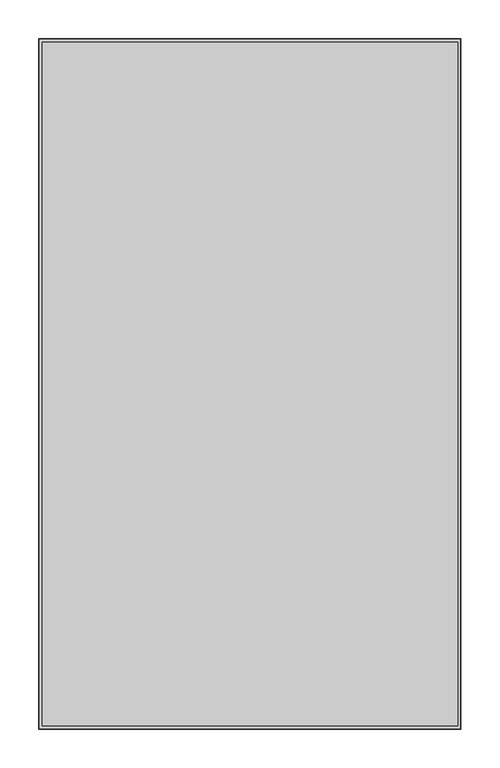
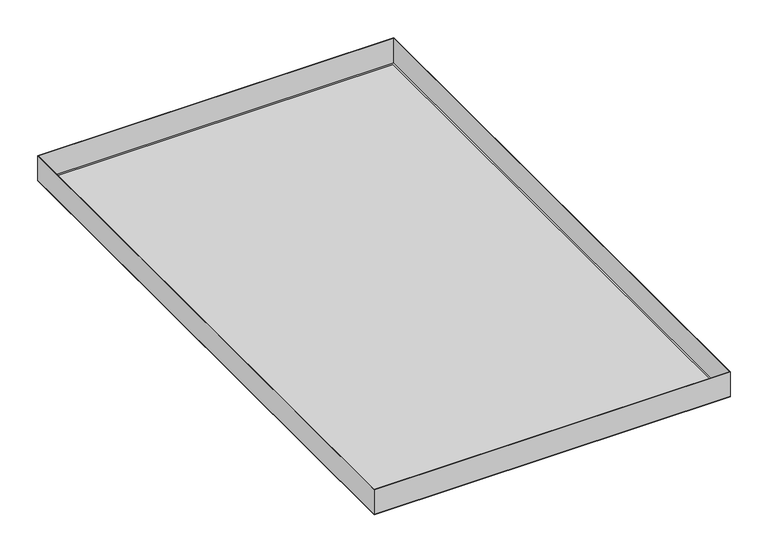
"""IFC4 building model written with IfcOpenShell, lengths in millimetres: proxy geometry, durlum_S7_panel : durlum_S7_panel_wall_corner."""

from ifc_helpers import new_model, si_unit, frame, origin, origin_with_axes, place, context, project, spatial, polyline, outline, extrude, source, transform, mapped, element, save


def generic_models_57176d63(model_context):
    return source(origin(), model_context, "Body", "SweptSolid", [
        extrude(outline(polyline([(270.5, 442.5), (270.5, -442.5), (-270.5, -442.5), (-270.5, 442.5), (270.5, 442.5)]), holes=[polyline([(269.9, 441.9), (-269.9, 441.9), (-269.9, -441.9), (269.9, -441.9), (269.9, 441.9)])]), frame((0.0, 0.0, 0.6), z_axis=(0.0, 0.0, 1.0), x_axis=(1.0, 0.0, 0.0)), (0.0, 0.0, 1.0), 39.4),
        extrude(outline(polyline([(266.5, 438.5), (266.5, -438.5), (-266.5, -438.5), (-266.5, 438.5), (266.5, 438.5)])), frame((0.0, 0.0, 0.6), z_axis=(0.0, 0.0, 1.0), x_axis=(1.0, 0.0, 0.0)), (0.0, 0.0, 1.0), 0.6),
        extrude(outline(polyline([(270.5, 442.5), (270.5, -442.5), (-270.5, -442.5), (-270.5, 442.5), (270.5, 442.5)]), holes=[polyline([(266.5, 438.5), (-266.5, 438.5), (-266.5, -438.5), (266.5, -438.5), (266.5, 438.5)])]), origin_with_axes(), (0.0, 0.0, 1.0), 0.6),
        extrude(outline(polyline([(266.5, 438.5), (266.5, -438.5), (-266.5, -438.5), (-266.5, 438.5), (266.5, 438.5)])), origin_with_axes(), (0.0, 0.0, 1.0), 0.6),
    ])


if __name__ == "__main__":
    model = new_model("IFC4")
    model_context = context("Model", 3, world=origin())
    ifc_project = project(units=[si_unit("LENGTHUNIT", "METRE", prefix="MILLI")], contexts=[model_context])
    site = spatial("IfcSite", under=ifc_project)
    building = spatial("IfcBuilding", under=site)
    placement = place(None, origin())
    generic_models_shape = generic_models_57176d63(model_context)
    element("IfcBuildingElementProxy", 1, Name="durlum_S7_panel : durlum_S7_panel_wall_corner", ObjectType="durlum_S7_panel : durlum_S7_panel_wall_corner", at=placement, inside=building, context=model_context, shape_type="MappedRepresentation", body=[
        mapped(generic_models_shape, transform((0.0, 0.0, 0.0), x_axis=(1.0, 0.0, 0.0), y_axis=(0.0, 1.0, 0.0), z_axis=(0.0, 0.0, 1.0))),
    ])
    save(model, "model.ifc")
